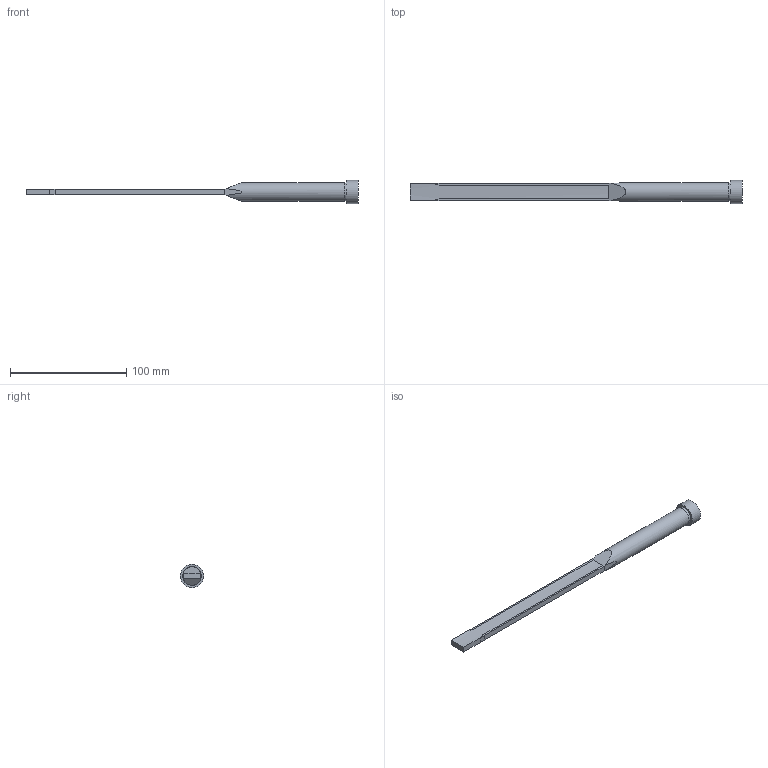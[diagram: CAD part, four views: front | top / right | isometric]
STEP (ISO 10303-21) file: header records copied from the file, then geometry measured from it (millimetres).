
FILE_DESCRIPTION(('STEP AP203'), '1');
FILE_NAME('25 Òîëêàòåëü', '', ('UNSPECIFIED'), ('UNSPECIFIED'), 'C3D Converter', 'C3D Toolkit', '');
FILE_SCHEMA(('CONFIG_CONTROL_DESIGN'));
Length unit declared in the file: millimetre
Products named in the file (1):  295 106/25
Bounding box: 286 x 20 x 20 mm (x, y, z)
Volume: 35408.9 mm3; surface area: 13113.7 mm2
Topology: 1 solids, 1 shells, 26 faces, 52 edges, 30 vertices
Faces by surface type: plane 22, cylinder 4
Full cylindrical faces by diameter (mm): 15.5 x1, 16 x1, 20 x1
Entity records: 879 total; most frequent: CARTESIAN_POINT 127, DIRECTION 103, ORIENTED_EDGE 98, EDGE_CURVE 49, LINE 35, VECTOR 35, AXIS2_PLACEMENT_3D 34, EDGE_LOOP 31
